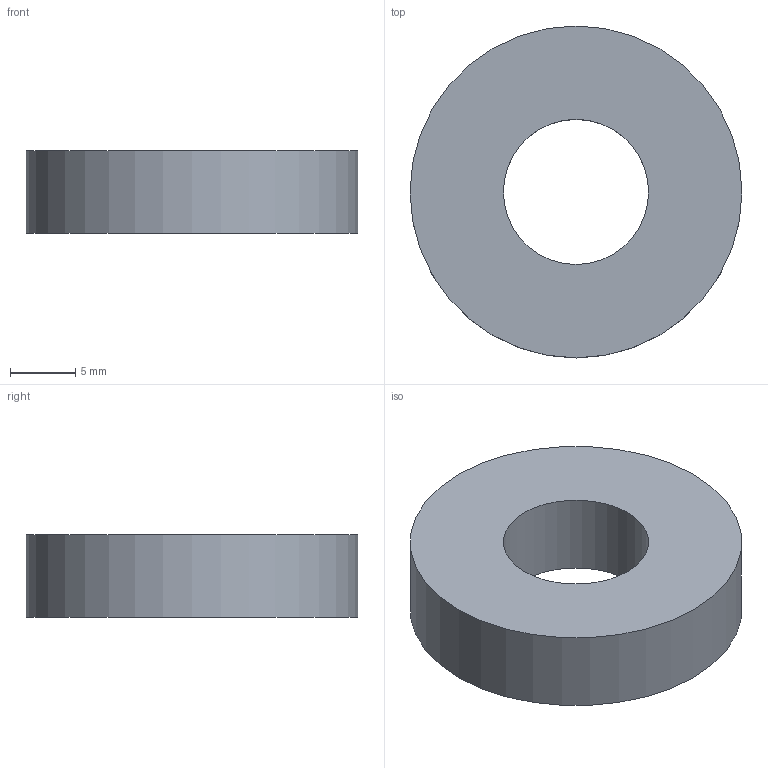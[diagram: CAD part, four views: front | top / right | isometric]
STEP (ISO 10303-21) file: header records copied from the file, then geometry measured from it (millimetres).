
FILE_DESCRIPTION(/* description */ (''),/* implementation_level */ '2;1');
FILE_NAME(/* name */ 'C:\001_Work\Designs\HLW\HLW-0375.stp',/* time_stamp */ '2015-09-04T08:20:52-04:00',/* author */ ('rramoutar'),/* organization */ ('Mason Industries Inc.'),/* preprocessor_version */ 'ST-DEVELOPER v15.6',/* originating_system */ 'Autodesk Inventor 2015',/* authorisation */ '');
FILE_SCHEMA (('AUTOMOTIVE_DESIGN { 1 0 10303 214 3 1 1 }'));
Length unit declared in the file: inch
Products named in the file (1): HLW-0375
Bounding box: 25.4 x 25.4 x 6.35 mm (x, y, z)
Volume: 2601.7 mm3; surface area: 1547.8 mm2
Topology: 1 solids, 1 shells, 4 faces, 6 edges, 4 vertices
Faces by surface type: cylinder 2, plane 2
Full cylindrical faces by diameter (mm): 11.112 x1, 25.4 x1
Entity records: 114 total; most frequent: DIRECTION 18, CARTESIAN_POINT 13, AXIS2_PLACEMENT_3D 9, EDGE_LOOP 8, ORIENTED_EDGE 8, FACE_BOUND 4, FACE_OUTER_BOUND 4, CIRCLE 4
